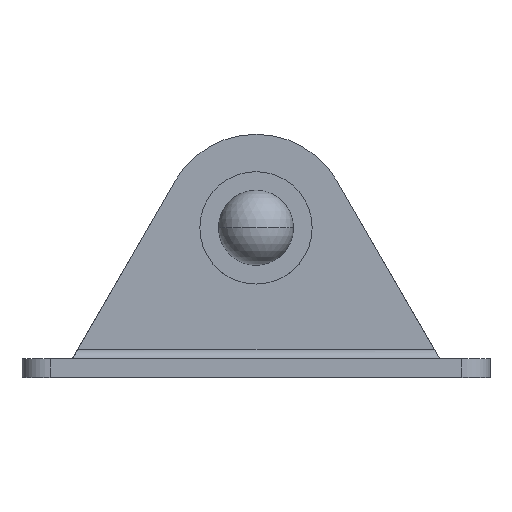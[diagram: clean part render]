
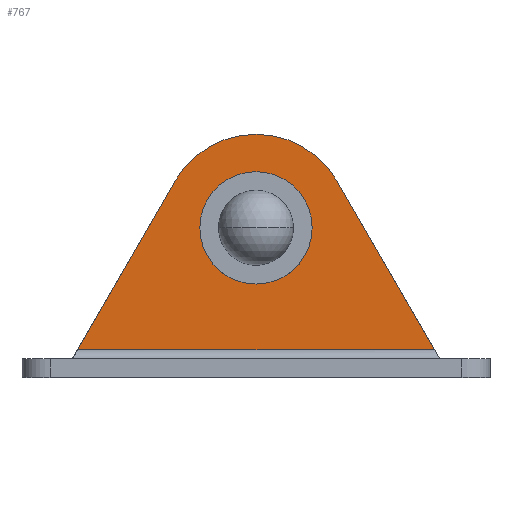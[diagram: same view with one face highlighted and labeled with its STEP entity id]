
A CAD part, top view. The second image highlights one B-rep face of the part: STEP entity #767.
In plain terms, the highlighted planar face has unit normal (0, 0, 1).
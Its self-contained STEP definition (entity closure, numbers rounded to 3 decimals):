
#59 = DIRECTION ( 'NONE',  ( 1., 0., 0. ) ) ;
#83 = CARTESIAN_POINT ( 'NONE',  ( 0., 0., -11. ) ) ;
#92 = DIRECTION ( 'NONE',  ( 0., 0., -1. ) ) ;
#115 = VECTOR ( 'NONE', #762, 1000. ) ;
#137 = EDGE_LOOP ( 'NONE', ( #1103, #248, #558, #729 ) ) ;
#149 = EDGE_CURVE ( 'NONE', #260, #872, #521, .T. ) ;
#193 = FACE_BOUND ( 'NONE', #1072, .T. ) ;
#229 = CARTESIAN_POINT ( 'NONE',  ( 8.66, 5., -11. ) ) ;
#248 = ORIENTED_EDGE ( 'NONE', *, *, #1064, .T. ) ;
#254 = DIRECTION ( 'NONE',  ( 0., 0., -1. ) ) ;
#256 = AXIS2_PLACEMENT_3D ( 'NONE', #83, #254, #936 ) ;
#260 = VERTEX_POINT ( 'NONE', #578 ) ;
#263 = VERTEX_POINT ( 'NONE', #669 ) ;
#269 = CARTESIAN_POINT ( 'NONE',  ( -8.66, 5., -11. ) ) ;
#327 = CARTESIAN_POINT ( 'NONE',  ( 0., 0., -11. ) ) ;
#346 = DIRECTION ( 'NONE',  ( -1., 0., 0. ) ) ;
#398 = CARTESIAN_POINT ( 'NONE',  ( 6., 0., -11. ) ) ;
#449 = AXIS2_PLACEMENT_3D ( 'NONE', #557, #92, #1098 ) ;
#465 = EDGE_CURVE ( 'NONE', #872, #260, #961, .T. ) ;
#469 = VECTOR ( 'NONE', #566, 1000. ) ;
#474 = VECTOR ( 'NONE', #59, 1000. ) ;
#506 = AXIS2_PLACEMENT_3D ( 'NONE', #327, #985, #346 ) ;
#521 = CIRCLE ( 'NONE', #256, 6. ) ;
#529 = ORIENTED_EDGE ( 'NONE', *, *, #149, .T. ) ;
#550 = LINE ( 'NONE', #677, #115 ) ;
#557 = CARTESIAN_POINT ( 'NONE',  ( 0., 0., -11. ) ) ;
#558 = ORIENTED_EDGE ( 'NONE', *, *, #1004, .F. ) ;
#566 = DIRECTION ( 'NONE',  ( 0.5, 0.866, 0. ) ) ;
#568 = CIRCLE ( 'NONE', #693, 10. ) ;
#578 = CARTESIAN_POINT ( 'NONE',  ( -6., 0., -11. ) ) ;
#621 = DIRECTION ( 'NONE',  ( 0., 0., -1. ) ) ;
#654 = VERTEX_POINT ( 'NONE', #229 ) ;
#669 = CARTESIAN_POINT ( 'NONE',  ( -8.66, 5., -11. ) ) ;
#677 = CARTESIAN_POINT ( 'NONE',  ( 8.66, 5., -11. ) ) ;
#679 = EDGE_CURVE ( 'NONE', #263, #654, #568, .T. ) ;
#693 = AXIS2_PLACEMENT_3D ( 'NONE', #971, #621, #963 ) ;
#714 = CARTESIAN_POINT ( 'NONE',  ( 0., -13., -11. ) ) ;
#729 = ORIENTED_EDGE ( 'NONE', *, *, #679, .F. ) ;
#740 = ORIENTED_EDGE ( 'NONE', *, *, #465, .T. ) ;
#741 = EDGE_CURVE ( 'NONE', #1115, #263, #1112, .T. ) ;
#762 = DIRECTION ( 'NONE',  ( 0.5, -0.866, 0. ) ) ;
#767 = ADVANCED_FACE ( 'NONE', ( #193, #812 ), #921, .F. ) ;
#797 = VERTEX_POINT ( 'NONE', #1120 ) ;
#812 = FACE_OUTER_BOUND ( 'NONE', #137, .T. ) ;
#872 = VERTEX_POINT ( 'NONE', #398 ) ;
#921 = PLANE ( 'NONE',  #449 ) ;
#936 = DIRECTION ( 'NONE',  ( -1., 0., 0. ) ) ;
#961 = CIRCLE ( 'NONE', #506, 6. ) ;
#963 = DIRECTION ( 'NONE',  ( -1., 0., 0. ) ) ;
#971 = CARTESIAN_POINT ( 'NONE',  ( 0., 0., -11. ) ) ;
#985 = DIRECTION ( 'NONE',  ( 0., 0., -1. ) ) ;
#1004 = EDGE_CURVE ( 'NONE', #654, #797, #550, .T. ) ;
#1005 = LINE ( 'NONE', #714, #474 ) ;
#1064 = EDGE_CURVE ( 'NONE', #1115, #797, #1005, .T. ) ;
#1072 = EDGE_LOOP ( 'NONE', ( #529, #740 ) ) ;
#1098 = DIRECTION ( 'NONE',  ( -1., 0., 0. ) ) ;
#1103 = ORIENTED_EDGE ( 'NONE', *, *, #741, .F. ) ;
#1112 = LINE ( 'NONE', #269, #469 ) ;
#1115 = VERTEX_POINT ( 'NONE', #1160 ) ;
#1120 = CARTESIAN_POINT ( 'NONE',  ( 19.053, -13., -11. ) ) ;
#1160 = CARTESIAN_POINT ( 'NONE',  ( -19.053, -13., -11. ) ) ;
